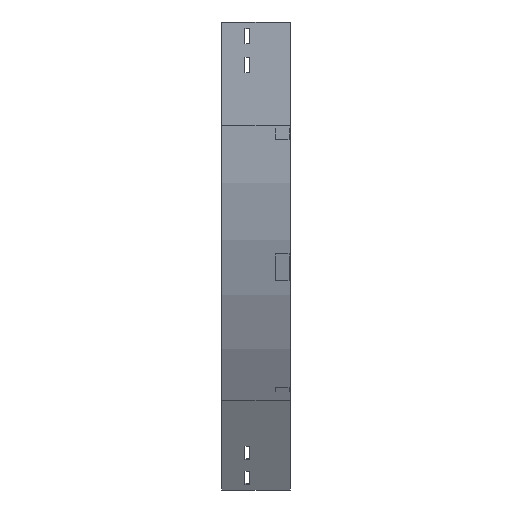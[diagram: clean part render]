
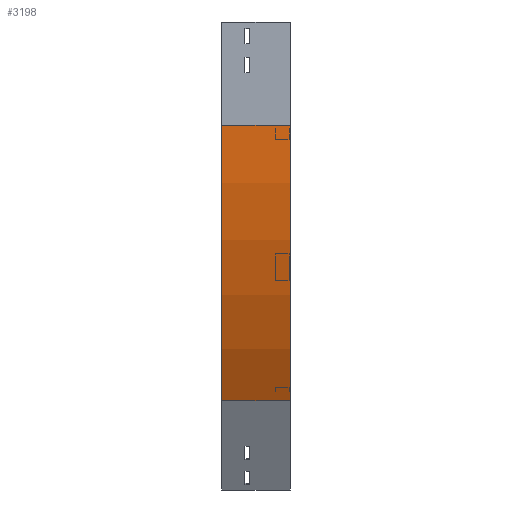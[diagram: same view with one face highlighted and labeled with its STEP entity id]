
A CAD part, left-side view. The second image highlights one B-rep face of the part: STEP entity #3198.
In plain terms, the highlighted cylindrical face has radius 800 mm (diameter 1600 mm), a partial arc.
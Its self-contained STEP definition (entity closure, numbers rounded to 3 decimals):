
#54 = EDGE_CURVE ( 'NONE', #1927, #625, #2442, .T. ) ;
#407 = DIRECTION ( 'NONE',  ( 0., -1., 0. ) ) ;
#439 = DIRECTION ( 'NONE',  ( 0., -1., 0. ) ) ;
#468 = DIRECTION ( 'NONE',  ( 0., -1., 0. ) ) ;
#546 = CARTESIAN_POINT ( 'NONE',  ( 0., 0., -150. ) ) ;
#625 = VERTEX_POINT ( 'NONE', #778 ) ;
#628 = CARTESIAN_POINT ( 'NONE',  ( 800., 100., -150. ) ) ;
#710 = CARTESIAN_POINT ( 'NONE',  ( 107.18, 0., -550. ) ) ;
#778 = CARTESIAN_POINT ( 'NONE',  ( 107.18, 0., -550. ) ) ;
#789 = VERTEX_POINT ( 'NONE', #546 ) ;
#1109 = FACE_OUTER_BOUND ( 'NONE', #3242, .T. ) ;
#1146 = DIRECTION ( 'NONE',  ( 0., -1., 0. ) ) ;
#1220 = VECTOR ( 'NONE', #439, 1000. ) ;
#1300 = EDGE_CURVE ( 'NONE', #789, #625, #2461, .T. ) ;
#1372 = ORIENTED_EDGE ( 'NONE', *, *, #1300, .F. ) ;
#1547 = DIRECTION ( 'NONE',  ( -1., 0., 0. ) ) ;
#1582 = EDGE_CURVE ( 'NONE', #2994, #1927, #3384, .T. ) ;
#1702 = CARTESIAN_POINT ( 'NONE',  ( 0., 0., -150. ) ) ;
#1715 = ORIENTED_EDGE ( 'NONE', *, *, #1582, .T. ) ;
#1798 = ORIENTED_EDGE ( 'NONE', *, *, #3590, .F. ) ;
#1860 = AXIS2_PLACEMENT_3D ( 'NONE', #2278, #2312, #3197 ) ;
#1927 = VERTEX_POINT ( 'NONE', #3546 ) ;
#2254 = AXIS2_PLACEMENT_3D ( 'NONE', #628, #1146, #2379 ) ;
#2278 = CARTESIAN_POINT ( 'NONE',  ( 800., 0., -150. ) ) ;
#2295 = CYLINDRICAL_SURFACE ( 'NONE', #1860, 800. ) ;
#2312 = DIRECTION ( 'NONE',  ( 0., -1., 0. ) ) ;
#2379 = DIRECTION ( 'NONE',  ( -1., 0., 0. ) ) ;
#2410 = CARTESIAN_POINT ( 'NONE',  ( 800., 0., -150. ) ) ;
#2442 = LINE ( 'NONE', #710, #1220 ) ;
#2461 = CIRCLE ( 'NONE', #3458, 800. ) ;
#2673 = VECTOR ( 'NONE', #468, 1000. ) ;
#2994 = VERTEX_POINT ( 'NONE', #3107 ) ;
#3107 = CARTESIAN_POINT ( 'NONE',  ( 0., 100., -150. ) ) ;
#3197 = DIRECTION ( 'NONE',  ( 0., 0., -1. ) ) ;
#3198 = ADVANCED_FACE ( 'NONE', ( #1109 ), #2295, .T. ) ;
#3242 = EDGE_LOOP ( 'NONE', ( #1372, #1798, #1715, #3703 ) ) ;
#3384 = CIRCLE ( 'NONE', #2254, 800. ) ;
#3450 = LINE ( 'NONE', #1702, #2673 ) ;
#3458 = AXIS2_PLACEMENT_3D ( 'NONE', #2410, #407, #1547 ) ;
#3546 = CARTESIAN_POINT ( 'NONE',  ( 107.18, 100., -550. ) ) ;
#3590 = EDGE_CURVE ( 'NONE', #2994, #789, #3450, .T. ) ;
#3703 = ORIENTED_EDGE ( 'NONE', *, *, #54, .T. ) ;
